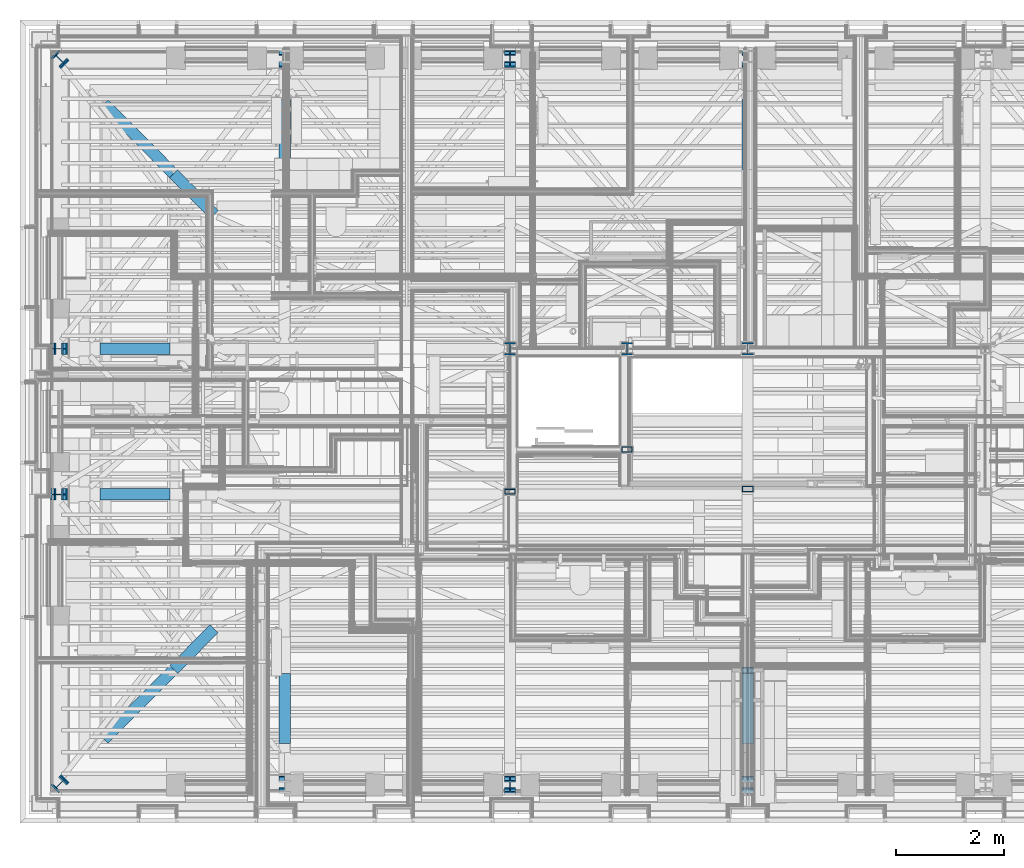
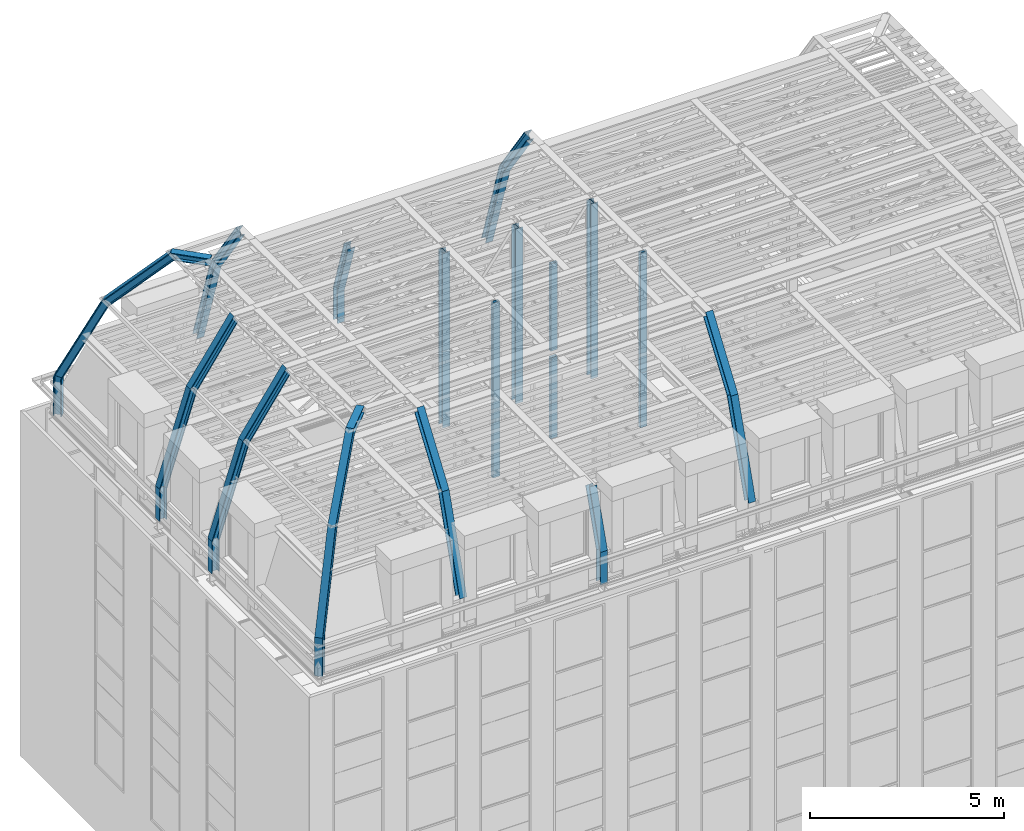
# One storey, part 1 of 183: 33 columns.
"""IFC2X3 building model written with IfcOpenShell, lengths in metres."""

import ifcopenshell
import ifcopenshell.guid

model = None  # the IFC model being written
_history = None  # IfcOwnerHistory: only IFC2X3 demands one
_inside = {}  # id of a spatial element -> (the spatial element, [elements in it])
_under = {}  # id of a project, library or spatial element -> (it, [spatial elements below it])
_declared = {}  # id of a project -> (the project, [libraries it declares])
_typed = {}  # id of a type object -> (the type object, [elements of that type])
_made_of = {}  # id of a material, layer set ... -> (it, [elements and type objects made of it])


def new_model(schema):
    """Start an empty IFC model of exactly this schema.

    Asked for "IFC4X3", IfcOpenShell would pick the latest addendum, in which some entities
    have other attributes; the version numbers below select the first issue.
    IFC2X3 requires an IfcOwnerHistory on every rooted entity: one is made here for all.
    """
    global model, _history
    if schema == "IFC4X3":
        model = ifcopenshell.file(schema_version=(4, 3, 0, 0))
    else:
        model = ifcopenshell.file(schema=schema)
    _inside.clear()
    _under.clear()
    _declared.clear()
    _typed.clear()
    _made_of.clear()
    _history = None
    if model.schema == "IFC2X3":
        org = make("IfcOrganization", Name="unknown")
        user = make(
            "IfcPersonAndOrganization",
            ThePerson=make("IfcPerson", FamilyName="unknown"),
            TheOrganization=org,
        )
        app = make(
            "IfcApplication",
            ApplicationDeveloper=org,
            Version="unknown",
            ApplicationFullName="unknown",
            ApplicationIdentifier="unknown",
        )
        _history = make(
            "IfcOwnerHistory",
            OwningUser=user,
            OwningApplication=app,
            ChangeAction="ADDED",
            CreationDate=0,
        )
    return model


def make(cls, **values):
    """One entity of the class cls with the attributes given. An attribute that is None is left unset."""
    return model.create_entity(
        cls, **{name: value for name, value in values.items() if value is not None}
    )


def entity(cls, *values):
    """Any entity or typed value of the class cls, its attributes in the order of the schema. None: left unset."""
    e = model.create_entity(cls)
    for i, value in enumerate(values):
        if value is not None:
            e[i] = value
    return e


def rooted(cls, **values):
    """An entity with a GlobalId (a new one), such as an element, a storey or a relation."""
    return make(cls, GlobalId=ifcopenshell.guid.new(), OwnerHistory=_history, **values)


def si_unit(unit_type, name, prefix=None):
    """IfcSIUnit, for example si_unit("LENGTHUNIT", "METRE", prefix="MILLI")."""
    return make("IfcSIUnit", UnitType=unit_type, Prefix=prefix, Name=name)


def converted_unit(unit_type, name, factor, base, dimensions=None, offset=None):
    """IfcConversionBasedUnit, such as the inch: factor (a typed value) times the base unit."""
    return make(
        "IfcConversionBasedUnit"
        if offset is None
        else "IfcConversionBasedUnitWithOffset",
        ConversionOffset=offset,
        Dimensions=None
        if dimensions is None
        else entity("IfcDimensionalExponents", *dimensions),
        UnitType=unit_type,
        Name=name,
        ConversionFactor=make(
            "IfcMeasureWithUnit", ValueComponent=factor, UnitComponent=base
        ),
    )


def derived_unit(unit_type, elements):
    """IfcDerivedUnit: a product of units, each with its exponent."""
    return make(
        "IfcDerivedUnit",
        Elements=[
            make("IfcDerivedUnitElement", Unit=unit, Exponent=power)
            for unit, power in elements
        ],
        UnitType=unit_type,
    )


def money_unit(currency):
    """IfcMonetaryUnit."""
    return make("IfcMonetaryUnit", Currency=currency)


def assignment(units):
    """IfcUnitAssignment: the units of a project."""
    return None if units is None else make("IfcUnitAssignment", Units=units)


def point(xyz):
    """IfcCartesianPoint."""
    return None if xyz is None else make("IfcCartesianPoint", Coordinates=xyz)


def direction(xyz):
    """IfcDirection."""
    return None if xyz is None else make("IfcDirection", DirectionRatios=xyz)


def frame(location, z_axis=None, x_axis=None):
    """IfcAxis2Placement3D, a coordinate frame: its origin and axes. An axis left out is left unset."""
    return make(
        "IfcAxis2Placement3D",
        Location=point(location),
        Axis=direction(z_axis),
        RefDirection=direction(x_axis),
    )


def origin_with_axes():
    """The frame at (0, 0, 0) with the z axis (0, 0, 1) and the x axis (1, 0, 0) written out."""
    return frame((0.0, 0.0, 0.0), z_axis=(0.0, 0.0, 1.0), x_axis=(1.0, 0.0, 0.0))


def place(relative_to, where):
    """IfcLocalPlacement: puts the frame where relative to a parent placement (None: the world)."""
    return make(
        "IfcLocalPlacement", PlacementRelTo=relative_to, RelativePlacement=where
    )


def context(
    kind, dimensions, precision=None, world=None, true_north=None, identifier=None
):
    """IfcGeometricRepresentationContext, for example the 3D "Model" context."""
    return make(
        "IfcGeometricRepresentationContext",
        ContextIdentifier=identifier,
        ContextType=kind,
        CoordinateSpaceDimension=dimensions,
        Precision=precision,
        WorldCoordinateSystem=world,
        TrueNorth=true_north,
    )


def subcontext(parent, identifier, kind, view, scale=None):
    """IfcGeometricRepresentationSubContext, for example "Body" below "Model"."""
    return make(
        "IfcGeometricRepresentationSubContext",
        ContextIdentifier=identifier,
        ContextType=kind,
        ParentContext=parent,
        TargetScale=scale,
        TargetView=view,
    )


def project(units=None, contexts=None):
    """IfcProject with its units and contexts."""
    return rooted(
        "IfcProject",
        Name="project",
        RepresentationContexts=contexts,
        UnitsInContext=assignment(units),
    )


def spatial(cls, under=None, at=None, **own):
    """A site, building, storey or space (cls), placed at a placement, below another one or the project."""
    s = rooted(cls, ObjectPlacement=at, **own)
    if under is not None:
        _under.setdefault(under.id(), (under, []))[1].append(s)
    return s


def polyline(points):
    """IfcPolyline through the points."""
    return make("IfcPolyline", Points=[point(p) for p in points])


def outline(outer, holes=None, kind="AREA"):
    """IfcArbitraryClosedProfileDef: a profile drawn as a closed curve; with holes, ...WithVoids."""
    if holes is None:
        return make("IfcArbitraryClosedProfileDef", ProfileType=kind, OuterCurve=outer)
    return make(
        "IfcArbitraryProfileDefWithVoids",
        ProfileType=kind,
        OuterCurve=outer,
        InnerCurves=holes,
    )


def extrude(swept, where, along, depth):
    """IfcExtrudedAreaSolid: the profile swept, set in the frame where, extruded along a direction by depth."""
    return make(
        "IfcExtrudedAreaSolid",
        SweptArea=swept,
        Position=where,
        ExtrudedDirection=direction(along),
        Depth=depth,
    )


def clip(a, b, op="DIFFERENCE"):
    """IfcBooleanClippingResult: the solid a cut by the half space b."""
    return make(
        "IfcBooleanClippingResult", Operator=op, FirstOperand=a, SecondOperand=b
    )


def halfspace(plane, agree):
    """IfcHalfSpaceSolid: all space on one side of the plane z = 0 of the frame plane."""
    return make(
        "IfcHalfSpaceSolid",
        BaseSurface=make("IfcPlane", Position=plane),
        AgreementFlag=agree,
    )


def shape(context_of_items, identifier, shape_type, items):
    """IfcShapeRepresentation: the items that make up one representation, for example the "Body"."""
    return make(
        "IfcShapeRepresentation",
        ContextOfItems=context_of_items,
        RepresentationIdentifier=identifier,
        RepresentationType=shape_type,
        Items=items,
    )


def material(Name=None, Category=None):
    """IfcMaterial."""
    return make("IfcMaterial", Name=Name, Category=Category)


def made_of(thing, what):
    """Note that an element or type object is made of a material, layer set ...; save() writes the relation."""
    if what is not None:
        _made_of.setdefault(what.id(), (what, []))[1].append(thing)
    return thing


def type_object(cls, material=None, **own):
    """A type object (cls), such as IfcWallType, which elements share."""
    return made_of(rooted(cls, **own), material)


def element(
    cls,
    number,
    at=None,
    inside=None,
    cuts=None,
    type_object=None,
    material=None,
    context=None,
    identifier="Body",
    shape_type=None,
    held_by="IfcProductDefinitionShape",
    body=None,
    shapes=None,
    **own,
):
    """One element of the class cls, such as IfcWall. Its Tag is "e" and its number.

    at: its placement. inside: the storey or other place that contains it. cuts: it is an
    opening in that element (IfcRelVoidsElement). A single representation is given by context,
    identifier, shape_type and body (its items); several are given by shapes. held_by: the class
    of the entity that holds the representations. save() writes the other relations.
    """
    e = rooted(cls, Tag="e%d" % number, ObjectPlacement=at, **own)
    if body is not None:
        shapes = [shape(context, identifier, shape_type, body)]
    if shapes is not None:
        e.Representation = make(held_by, Representations=shapes)
    if inside is not None:
        _inside.setdefault(inside.id(), (inside, []))[1].append(e)
    if cuts is not None:
        rooted(
            "IfcRelVoidsElement", RelatingBuildingElement=cuts, RelatedOpeningElement=e
        )
    if type_object is not None:
        _typed.setdefault(type_object.id(), (type_object, []))[1].append(e)
    return made_of(e, material)


def aggregate(whole, parts):
    """IfcRelAggregates: a whole, such as a stair, and the parts it consists of."""
    return rooted("IfcRelAggregates", RelatingObject=whole, RelatedObjects=parts)


def save(model, path):
    """Write the relations noted so far, then the file.

    IfcRelAggregates (storeys below a building ...), IfcRelContainedInSpatialStructure (elements
    in a storey), IfcRelDefinesByType, IfcRelAssociatesMaterial and IfcRelDeclares: one each for
    every whole, place, type object, material and project.
    """
    for whole, parts in _under.values():
        aggregate(whole, parts)
    for where, things in _inside.values():
        rooted(
            "IfcRelContainedInSpatialStructure",
            RelatedElements=things,
            RelatingStructure=where,
        )
    for kind, things in _typed.values():
        rooted("IfcRelDefinesByType", RelatedObjects=things, RelatingType=kind)
    for what, things in _made_of.values():
        rooted("IfcRelAssociatesMaterial", RelatedObjects=things, RelatingMaterial=what)
    for by, libraries in _declared.values():
        rooted("IfcRelDeclares", RelatingContext=by, RelatedDefinitions=libraries)
    model.write(path)


model = new_model("IFC2X3")

# Units and contexts
model_context = context("Model", 3, precision=1e-05, world=origin_with_axes(), true_north=direction((0.0, 1.0)))
body_context = subcontext(model_context, "Body", "Model", "MODEL_VIEW", scale=1.0)
ifc_project = project(units=[si_unit("LENGTHUNIT", "METRE"), si_unit("AREAUNIT", "SQUARE_METRE"), si_unit("VOLUMEUNIT", "CUBIC_METRE"), si_unit("ABSORBEDDOSEUNIT", "GRAY"), si_unit("AMOUNTOFSUBSTANCEUNIT", "MOLE"), si_unit("DOSEEQUIVALENTUNIT", "SIEVERT"), si_unit("ELECTRICCAPACITANCEUNIT", "FARAD"), si_unit("ELECTRICCHARGEUNIT", "COULOMB"), si_unit("ELECTRICCONDUCTANCEUNIT", "SIEMENS"), si_unit("ELECTRICCURRENTUNIT", "AMPERE"), si_unit("ELECTRICRESISTANCEUNIT", "OHM"), si_unit("ELECTRICVOLTAGEUNIT", "VOLT"), si_unit("ENERGYUNIT", "JOULE"), si_unit("FORCEUNIT", "NEWTON"), si_unit("FREQUENCYUNIT", "HERTZ"), si_unit("ILLUMINANCEUNIT", "LUX"), si_unit("INDUCTANCEUNIT", "HENRY"), si_unit("LUMINOUSFLUXUNIT", "LUMEN"), si_unit("LUMINOUSINTENSITYUNIT", "CANDELA"), si_unit("MAGNETICFLUXDENSITYUNIT", "TESLA"), si_unit("MAGNETICFLUXUNIT", "WEBER"), si_unit("MASSUNIT", "GRAM"), converted_unit("PLANEANGLEUNIT", "degree", entity("IfcReal", 0.0174532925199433), si_unit("PLANEANGLEUNIT", "RADIAN"), dimensions=[0, 0, 0, 0, 0, 0, 0]), si_unit("POWERUNIT", "WATT"), si_unit("PRESSUREUNIT", "PASCAL"), si_unit("RADIOACTIVITYUNIT", "BECQUEREL"), si_unit("SOLIDANGLEUNIT", "STERADIAN"), si_unit("THERMODYNAMICTEMPERATUREUNIT", "KELVIN"), si_unit("TIMEUNIT", "SECOND"), derived_unit("ACCELERATIONUNIT", [(si_unit("LENGTHUNIT", "METRE"), 1), (si_unit("TIMEUNIT", "SECOND"), -2)]), derived_unit("ANGULARVELOCITYUNIT", [(converted_unit("PLANEANGLEUNIT", "degree", entity("IfcReal", 0.0174532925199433), si_unit("PLANEANGLEUNIT", "RADIAN"), dimensions=[0, 0, 0, 0, 0, 0, 0]), 1), (si_unit("TIMEUNIT", "SECOND"), -1)]), derived_unit("CURVATUREUNIT", [(converted_unit("PLANEANGLEUNIT", "degree", entity("IfcReal", 0.0174532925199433), si_unit("PLANEANGLEUNIT", "RADIAN"), dimensions=[0, 0, 0, 0, 0, 0, 0]), 1), (si_unit("LENGTHUNIT", "METRE"), -1)]), derived_unit("DYNAMICVISCOSITYUNIT", [(si_unit("PRESSUREUNIT", "PASCAL"), 1), (si_unit("TIMEUNIT", "SECOND"), 1)]), derived_unit("HEATFLUXDENSITYUNIT", [(si_unit("POWERUNIT", "WATT"), 1), (si_unit("LENGTHUNIT", "METRE"), -2)]), derived_unit("HEATINGVALUEUNIT", [(si_unit("ENERGYUNIT", "JOULE"), 1), (si_unit("MASSUNIT", "GRAM"), -1)]), derived_unit("INTEGERCOUNTRATEUNIT", [(si_unit("TIMEUNIT", "SECOND"), -1)]), derived_unit("IONCONCENTRATIONUNIT", [(si_unit("MASSUNIT", "GRAM"), 1), (si_unit("VOLUMEUNIT", "CUBIC_METRE"), -1)]), derived_unit("ISOTHERMALMOISTURECAPACITYUNIT", [(si_unit("VOLUMEUNIT", "CUBIC_METRE"), 1), (si_unit("MASSUNIT", "GRAM"), -1)]), derived_unit("KINEMATICVISCOSITYUNIT", [(si_unit("AREAUNIT", "SQUARE_METRE"), 1), (si_unit("TIMEUNIT", "SECOND"), -1)]), derived_unit("LINEARFORCEUNIT", [(si_unit("FORCEUNIT", "NEWTON"), 1), (si_unit("LENGTHUNIT", "METRE"), -1)]), derived_unit("LINEARMOMENTUNIT", [(si_unit("FORCEUNIT", "NEWTON"), 1), (si_unit("LENGTHUNIT", "METRE"), -1)]), derived_unit("LINEARSTIFFNESSUNIT", [(si_unit("FORCEUNIT", "NEWTON"), 1), (si_unit("LENGTHUNIT", "METRE"), -1)]), derived_unit("LINEARVELOCITYUNIT", [(si_unit("LENGTHUNIT", "METRE"), 1), (si_unit("TIMEUNIT", "SECOND"), -1)]), derived_unit("LUMINOUSINTENSITYDISTRIBUTIONUNIT", [(si_unit("LUMINOUSINTENSITYUNIT", "CANDELA"), 1), (si_unit("LUMINOUSFLUXUNIT", "LUMEN"), -1)]), derived_unit("MASSDENSITYUNIT", [(si_unit("MASSUNIT", "GRAM"), 1), (si_unit("VOLUMEUNIT", "CUBIC_METRE"), -1)]), derived_unit("MASSFLOWRATEUNIT", [(si_unit("MASSUNIT", "GRAM"), 1), (si_unit("TIMEUNIT", "SECOND"), -1)]), derived_unit("MASSPERLENGTHUNIT", [(si_unit("MASSUNIT", "GRAM"), 1), (si_unit("LENGTHUNIT", "METRE"), -1)]), derived_unit("MODULUSOFELASTICITYUNIT", [(si_unit("FORCEUNIT", "NEWTON"), 1), (si_unit("AREAUNIT", "SQUARE_METRE"), -1)]), derived_unit("MODULUSOFLINEARSUBGRADEREACTIONUNIT", [(si_unit("FORCEUNIT", "NEWTON"), 1), (si_unit("LENGTHUNIT", "METRE"), -2)]), derived_unit("MODULUSOFROTATIONALSUBGRADEREACTIONUNIT", [(si_unit("FORCEUNIT", "NEWTON"), 1), (si_unit("LENGTHUNIT", "METRE"), 1)]), derived_unit("MODULUSOFSUBGRADEREACTIONUNIT", [(si_unit("FORCEUNIT", "NEWTON"), 1), (si_unit("VOLUMEUNIT", "CUBIC_METRE"), -1)]), derived_unit("MOISTUREDIFFUSIVITYUNIT", [(si_unit("VOLUMEUNIT", "CUBIC_METRE"), 1), (si_unit("TIMEUNIT", "SECOND"), -1)]), derived_unit("MOLECULARWEIGHTUNIT", [(si_unit("MASSUNIT", "GRAM"), 1), (si_unit("AMOUNTOFSUBSTANCEUNIT", "MOLE"), -1)]), derived_unit("PLANARFORCEUNIT", [(si_unit("FORCEUNIT", "NEWTON"), 1), (si_unit("LENGTHUNIT", "METRE"), -2)]), derived_unit("ROTATIONALFREQUENCYUNIT", [(si_unit("TIMEUNIT", "SECOND"), -1)]), derived_unit("ROTATIONALMASSUNIT", [(si_unit("MASSUNIT", "GRAM"), 1), (si_unit("LENGTHUNIT", "METRE"), 2)]), derived_unit("ROTATIONALSTIFFNESSUNIT", [(si_unit("FORCEUNIT", "NEWTON"), 1), (si_unit("LENGTHUNIT", "METRE"), 1), (converted_unit("PLANEANGLEUNIT", "degree", entity("IfcReal", 0.0174532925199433), si_unit("PLANEANGLEUNIT", "RADIAN"), dimensions=[0, 0, 0, 0, 0, 0, 0]), -1)]), derived_unit("SECTIONAREAINTEGRALUNIT", [(si_unit("LENGTHUNIT", "METRE"), 5)]), derived_unit("SECTIONMODULUSUNIT", [(si_unit("LENGTHUNIT", "METRE"), 3)]), derived_unit("SHEARMODULUSUNIT", [(si_unit("FORCEUNIT", "NEWTON"), 1), (si_unit("AREAUNIT", "SQUARE_METRE"), -1)]), derived_unit("SOUNDPOWERUNIT", [(si_unit("ENERGYUNIT", "JOULE"), 1), (si_unit("TIMEUNIT", "SECOND"), -1)]), derived_unit("SPECIFICHEATCAPACITYUNIT", [(si_unit("FORCEUNIT", "NEWTON"), 1), (si_unit("MASSUNIT", "GRAM"), -1), (si_unit("THERMODYNAMICTEMPERATUREUNIT", "KELVIN"), -1)]), derived_unit("TEMPERATUREGRADIENTUNIT", [(si_unit("THERMODYNAMICTEMPERATUREUNIT", "KELVIN"), 1), (si_unit("LENGTHUNIT", "METRE"), -1)]), derived_unit("THERMALADMITTANCEUNIT", [(si_unit("POWERUNIT", "WATT"), 1), (si_unit("AREAUNIT", "SQUARE_METRE"), -1), (si_unit("THERMODYNAMICTEMPERATUREUNIT", "KELVIN"), -1)]), derived_unit("THERMALCONDUCTANCEUNIT", [(si_unit("POWERUNIT", "WATT"), 1), (si_unit("LENGTHUNIT", "METRE"), -1), (si_unit("THERMODYNAMICTEMPERATUREUNIT", "KELVIN"), -1)]), derived_unit("THERMALEXPANSIONCOEFFICIENTUNIT", [(si_unit("THERMODYNAMICTEMPERATUREUNIT", "KELVIN"), -1)]), derived_unit("THERMALRESISTANCEUNIT", [(si_unit("AREAUNIT", "SQUARE_METRE"), 1), (si_unit("POWERUNIT", "WATT"), -1)]), derived_unit("THERMALTRANSMITTANCEUNIT", [(si_unit("POWERUNIT", "WATT"), 1), (si_unit("AREAUNIT", "SQUARE_METRE"), -1), (si_unit("THERMODYNAMICTEMPERATUREUNIT", "KELVIN"), -1)]), derived_unit("TORQUEUNIT", [(si_unit("FORCEUNIT", "NEWTON"), 1), (si_unit("LENGTHUNIT", "METRE"), 1)]), derived_unit("VAPORPERMEABILITYUNIT", [(si_unit("MASSUNIT", "GRAM"), 1), (si_unit("TIMEUNIT", "SECOND"), -1)]), derived_unit("VOLUMETRICFLOWRATEUNIT", [(si_unit("VOLUMEUNIT", "CUBIC_METRE"), 1), (si_unit("TIMEUNIT", "SECOND"), -1)]), derived_unit("WARPINGCONSTANTUNIT", [(si_unit("LENGTHUNIT", "METRE"), 6)]), derived_unit("WARPINGMOMENTUNIT", [(si_unit("FORCEUNIT", "NEWTON"), 1), (si_unit("LENGTHUNIT", "METRE"), 2)]), money_unit("GBP")], contexts=[model_context])

# Site, building, storey
site_placement = place(None, origin_with_axes())
site = spatial("IfcSite", under=ifc_project, at=site_placement, Name="Site", CompositionType="ELEMENT")
building_placement = place(site_placement, origin_with_axes())
building = spatial("IfcBuilding", under=site, at=building_placement, Name="Building01", CompositionType="ELEMENT")
storey_placement = place(building_placement, frame((0.0, 0.0, 5.15), z_axis=(0.0, 0.0, 1.0), x_axis=(1.0, 0.0, 0.0)))
storey = spatial("IfcBuildingStorey", under=building, at=storey_placement, Name="1F", CompositionType="ELEMENT", Elevation=5.15)

# Columns
ifc_material = material(Name="A_BSUK_Columns_Steel")
column_type = type_object("IfcColumnType", Name="A-Columns-Steel", PredefinedType="COLUMN")
for number, where, z_axis, x_axis, name in (
    (1, (8.98485, 8.6857, 9.73), (0.0, 0.0, 1.0), (1.0, 0.0, 0.0), "UC203f"),
    (2, (11.15485, 8.6857, 9.73), (0.0, 0.0, 1.0), (1.0, 0.0, 0.0), "UC203f"),
    (3, (13.39485, 8.6857, 9.73), (0.0, 0.0, 1.0), (1.0, 0.0, 0.0), "UC203f"),
):
    element("IfcColumn", number, at=place(storey_placement, frame(where, z_axis=z_axis, x_axis=x_axis)), inside=storey, type_object=column_type, material=ifc_material, Name=name, ObjectType="A-Columns-Steel", context=body_context, shape_type="SweptSolid", body=[
        extrude(outline(polyline([(0.2103, 0.0), (0.2103, 0.0237), (0.1124, 0.0237), (0.1124, 0.2049), (0.2103, 0.2049), (0.2103, 0.2286), (0.0, 0.2286), (0.0, 0.2049), (0.0979, 0.2049), (0.0979, 0.0237), (0.0, 0.0237), (0.0, 0.0), (0.2103, 0.0)])), origin_with_axes(), (0.0, 0.0, 1.0), 5.497),
    ])
column_1_placement = place(storey_placement, frame((9.09, 6.15, 9.73), z_axis=(0.0, 0.0, 1.0), x_axis=(-1.0, 0.0, 0.0)))
element("IfcColumn", 4, at=column_1_placement, inside=storey, type_object=column_type, material=ifc_material, Name="RHS200h", ObjectType="A-Columns-Steel", context=body_context, shape_type="SweptSolid", body=[
    extrude(outline(polyline([(-0.1, 0.05), (0.1, 0.05), (0.1, -0.05), (-0.1, -0.05), (-0.1, 0.05)]), holes=[polyline([(-0.09, 0.04), (-0.09, -0.04), (0.09, -0.04), (0.09, 0.04), (-0.09, 0.04)])]), origin_with_axes(), (0.0, 0.0, 1.0), 5.497),
])
column_2_placement = place(storey_placement, frame((11.26, 6.93, 9.73), z_axis=(0.0, 0.0, 1.0), x_axis=(-1.0, 0.0, 0.0)))
element("IfcColumn", 5, at=column_2_placement, inside=storey, type_object=column_type, material=ifc_material, Name="RHS200h", ObjectType="A-Columns-Steel", context=body_context, shape_type="SweptSolid", body=[
    extrude(outline(polyline([(-0.1, 0.05), (0.1, 0.05), (0.1, -0.05), (-0.1, -0.05), (-0.1, 0.05)]), holes=[polyline([(-0.09, 0.04), (-0.09, -0.04), (0.09, -0.04), (0.09, 0.04), (-0.09, 0.04)])]), origin_with_axes(), (0.0, 0.0, 1.0), 2.547),
])
column_3_placement = place(storey_placement, frame((11.26, 6.93, 12.48), z_axis=(0.0, 0.0, 1.0), x_axis=(-1.0, 0.0, 0.0)))
element("IfcColumn", 6, at=column_3_placement, inside=storey, type_object=column_type, material=ifc_material, Name="RHS200h", ObjectType="A-Columns-Steel", context=body_context, shape_type="SweptSolid", body=[
    extrude(outline(polyline([(-0.1, 0.05), (0.1, 0.05), (0.1, -0.05), (-0.1, -0.05), (-0.1, 0.05)]), holes=[polyline([(-0.09, 0.04), (-0.09, -0.04), (0.09, -0.04), (0.09, 0.04), (-0.09, 0.04)])]), origin_with_axes(), (0.0, 0.0, 1.0), 2.747),
])
column_4_placement = place(storey_placement, frame((13.5, 6.2, 9.73), z_axis=(0.0, 0.0, 1.0), x_axis=(-1.0, 0.0, 0.0)))
element("IfcColumn", 7, at=column_4_placement, inside=storey, type_object=column_type, material=ifc_material, Name="RHS200h", ObjectType="A-Columns-Steel", context=body_context, shape_type="SweptSolid", body=[
    extrude(outline(polyline([(-0.1, 0.05), (0.1, 0.05), (0.1, -0.05), (-0.1, -0.05), (-0.1, 0.05)]), holes=[polyline([(-0.09, 0.04), (-0.09, -0.04), (0.09, -0.04), (0.09, 0.04), (-0.09, 0.04)])]), origin_with_axes(), (0.0, 0.0, 1.0), 5.497),
])
column_5_placement = place(storey_placement, frame((13.60515, 0.778712, 10.678289), z_axis=(0.0, 0.30901699, 0.95105652), x_axis=(-1.0, 0.0, 0.0)))
element("IfcColumn", 8, at=column_5_placement, inside=storey, type_object=column_type, material=ifc_material, Name="UC203f", ObjectType="A-Columns-Steel", context=body_context, shape_type="Clipping", body=[
    clip(clip(extrude(outline(polyline([(0.2103, 0.0), (0.2103, 0.0237), (0.1124, 0.0237), (0.1124, 0.2049), (0.2103, 0.2049), (0.2103, 0.2286), (0.0, 0.2286), (0.0, 0.2049), (0.0979, 0.2049), (0.0979, 0.0237), (0.0, 0.0237), (0.0, 0.0), (0.2103, 0.0)])), origin_with_axes(), (0.0, 0.0, 1.0), 2.964323), halfspace(frame((0.0, 0.005594, 0.035321), z_axis=(0.0, 0.15643447, 0.98768834), x_axis=(1.0, 0.0, 0.0)), True)), halfspace(frame((0.0, -0.428348, 2.866142), z_axis=(0.0, 0.14780941, -0.98901586), x_axis=(-1.0, 0.0, 0.0)), True)),
])
column_6_placement = place(storey_placement, frame((8.98485, 0.5613, 9.73), z_axis=(0.0, 0.0, 1.0), x_axis=(1.0, 0.0, 0.0)))
element("IfcColumn", 9, at=column_6_placement, inside=storey, type_object=column_type, material=ifc_material, Name="UC203f", ObjectType="A-Columns-Steel", context=body_context, shape_type="Clipping", body=[
    clip(extrude(outline(polyline([(0.2103, 0.0), (0.2103, 0.0237), (0.1124, 0.0237), (0.1124, 0.2049), (0.2103, 0.2049), (0.2103, 0.2286), (0.0, 0.2286), (0.0, 0.2049), (0.0979, 0.2049), (0.0979, 0.0237), (0.0, 0.0237), (0.0, 0.0), (0.2103, 0.0)])), origin_with_axes(), (0.0, 0.0, 1.0), 1.018931), halfspace(frame((0.0, 0.157433, 0.993996), z_axis=(0.0, -0.15643447, -0.98768834), x_axis=(-1.0, 0.0, 0.0)), True)),
])
column_7_placement = place(storey_placement, frame((9.19515, 0.778712, 10.678289), z_axis=(0.0, 0.30901699, 0.95105652), x_axis=(-1.0, 0.0, 0.0)))
element("IfcColumn", 10, at=column_7_placement, inside=storey, type_object=column_type, material=ifc_material, Name="UC203f", ObjectType="A-Columns-Steel", context=body_context, shape_type="Clipping", body=[
    clip(clip(extrude(outline(polyline([(0.2103, 0.0), (0.2103, 0.0237), (0.1124, 0.0237), (0.1124, 0.2049), (0.2103, 0.2049), (0.2103, 0.2286), (0.0, 0.2286), (0.0, 0.2049), (0.0979, 0.2049), (0.0979, 0.0237), (0.0, 0.0237), (0.0, 0.0), (0.2103, 0.0)])), origin_with_axes(), (0.0, 0.0, 1.0), 1.806986), halfspace(frame((0.0, 0.005594, 0.035321), z_axis=(0.0, 0.15643447, 0.98768834), x_axis=(1.0, 0.0, 0.0)), True)), halfspace(frame((0.0, -0.428348, 2.866142), z_axis=(0.0, 0.14780941, -0.98901586), x_axis=(-1.0, 0.0, 0.0)), True)),
])
column_8_placement = place(storey_placement, frame((5.01515, 0.778712, 10.678289), z_axis=(0.0, 0.30901699, 0.95105652), x_axis=(-1.0, 0.0, 0.0)))
element("IfcColumn", 11, at=column_8_placement, inside=storey, type_object=column_type, material=ifc_material, Name="UC203f", ObjectType="A-Columns-Steel", context=body_context, shape_type="Clipping", body=[
    clip(clip(extrude(outline(polyline([(0.2103, 0.0), (0.2103, 0.0237), (0.1124, 0.0237), (0.1124, 0.2049), (0.2103, 0.2049), (0.2103, 0.2286), (0.0, 0.2286), (0.0, 0.2049), (0.0979, 0.2049), (0.0979, 0.0237), (0.0, 0.0237), (0.0, 0.0), (0.2103, 0.0)])), origin_with_axes(), (0.0, 0.0, 1.0), 2.964323), halfspace(frame((0.0, 0.005594, 0.035321), z_axis=(0.0, 0.15643447, 0.98768834), x_axis=(1.0, 0.0, 0.0)), True)), halfspace(frame((0.0, -0.428348, 2.866142), z_axis=(0.0, 0.14780941, -0.98901586), x_axis=(-1.0, 0.0, 0.0)), True)),
])
column_9_placement = place(storey_placement, frame((2.968871, 8.90515, 15.29248), z_axis=(-0.57357644, 0.0, -0.81915204), x_axis=(-0.81915204, 0.0, 0.57357644)))
element("IfcColumn", 12, at=column_9_placement, inside=storey, type_object=column_type, material=ifc_material, Name="UC203f", ObjectType="A-Columns-Steel", context=body_context, shape_type="Clipping", body=[
    clip(clip(extrude(outline(polyline([(0.0237, 0.0), (0.0237, -0.0979), (0.2049, -0.0979), (0.2049, 0.0), (0.2286, 0.0), (0.2286, -0.2103), (0.2049, -0.2103), (0.2049, -0.1124), (0.0237, -0.1124), (0.0237, -0.2103), (0.0, -0.2103), (0.0, 0.0), (0.0237, 0.0)])), origin_with_axes(), (0.0, 0.0, 1.0), 2.265062), halfspace(frame((0.04874, 0.0, 0.093629), z_axis=(0.46174861, 0.0, 0.88701083), x_axis=(0.88701083, 0.0, -0.46174861)), True)), halfspace(frame((-0.326126, 0.0, 2.182158), z_axis=(0.14780941, 0.0, -0.98901586), x_axis=(-0.98901586, 0.0, -0.14780941)), True)),
])
column_10_placement = place(storey_placement, frame((1.699838, 8.90515, 13.497528), z_axis=(-0.30901699, 0.0, -0.95105652), x_axis=(-0.95105652, 0.0, 0.30901699)))
element("IfcColumn", 13, at=column_10_placement, inside=storey, type_object=column_type, material=ifc_material, Name="UC203f", ObjectType="A-Columns-Steel", context=body_context, shape_type="Clipping", body=[
    clip(clip(extrude(outline(polyline([(0.0237, 0.0), (0.0237, -0.0979), (0.2049, -0.0979), (0.2049, 0.0), (0.2286, 0.0), (0.2286, -0.2103), (0.2049, -0.2103), (0.2049, -0.1124), (0.0237, -0.1124), (0.0237, -0.2103), (0.0, -0.2103), (0.0, 0.0), (0.0237, 0.0)])), origin_with_axes(), (0.0, 0.0, 1.0), 2.964323), halfspace(frame((-0.452419, 0.0, 2.85646), z_axis=(0.15643447, 0.0, -0.98768834), x_axis=(-0.98768834, 0.0, -0.15643447)), True)), halfspace(frame((0.004994, 0.0, 0.033418), z_axis=(0.14780941, 0.0, 0.98901586), x_axis=(0.98901586, 0.0, -0.14780941)), True)),
])
for number, where, z_axis, x_axis, name in (
    (14, (0.5664, 8.69485, 10.748931), (0.0, 0.0, -1.0), (1.0, 0.0, 0.0), "UC203f"),
    (15, (0.5664, 5.99485, 10.748931), (0.0, 0.0, -1.0), (1.0, 0.0, 0.0), "UC203f"),
):
    element("IfcColumn", number, at=place(storey_placement, frame(where, z_axis=z_axis, x_axis=x_axis)), inside=storey, type_object=column_type, material=ifc_material, Name=name, ObjectType="A-Columns-Steel", context=body_context, shape_type="Clipping", body=[
        clip(extrude(outline(polyline([(0.0237, 0.0), (0.0237, -0.0979), (0.2049, -0.0979), (0.2049, 0.0), (0.2286, 0.0), (0.2286, -0.2103), (0.2049, -0.2103), (0.2049, -0.1124), (0.0237, -0.1124), (0.0237, -0.2103), (0.0, -0.2103), (0.0, 0.0), (0.0237, 0.0)])), origin_with_axes(), (0.0, 0.0, 1.0), 1.018931), halfspace(frame((0.0, 0.0, 0.0), z_axis=(-0.15643447, 0.0, 0.98768834), x_axis=(0.98768834, 0.0, 0.15643447)), True)),
    ])
column_11_placement = place(storey_placement, frame((1.699838, 6.20515, 13.497528), z_axis=(-0.30901699, 0.0, -0.95105652), x_axis=(-0.95105652, 0.0, 0.30901699)))
element("IfcColumn", 16, at=column_11_placement, inside=storey, type_object=column_type, material=ifc_material, Name="UC203f", ObjectType="A-Columns-Steel", context=body_context, shape_type="Clipping", body=[
    clip(clip(extrude(outline(polyline([(0.0237, 0.0), (0.0237, -0.0979), (0.2049, -0.0979), (0.2049, 0.0), (0.2286, 0.0), (0.2286, -0.2103), (0.2049, -0.2103), (0.2049, -0.1124), (0.0237, -0.1124), (0.0237, -0.2103), (0.0, -0.2103), (0.0, 0.0), (0.0237, 0.0)])), origin_with_axes(), (0.0, 0.0, 1.0), 2.964323), halfspace(frame((-0.452419, 0.0, 2.85646), z_axis=(0.15643447, 0.0, -0.98768834), x_axis=(-0.98768834, 0.0, -0.15643447)), True)), halfspace(frame((0.004994, 0.0, 0.033418), z_axis=(0.14780941, 0.0, 0.98901586), x_axis=(0.98901586, 0.0, -0.14780941)), True)),
])
column_12_placement = place(storey_placement, frame((2.968871, 6.20515, 15.29248), z_axis=(-0.57357644, 0.0, -0.81915204), x_axis=(-0.81915204, 0.0, 0.57357644)))
element("IfcColumn", 17, at=column_12_placement, inside=storey, type_object=column_type, material=ifc_material, Name="UC203f", ObjectType="A-Columns-Steel", context=body_context, shape_type="Clipping", body=[
    clip(clip(extrude(outline(polyline([(0.0237, 0.0), (0.0237, -0.0979), (0.2049, -0.0979), (0.2049, 0.0), (0.2286, 0.0), (0.2286, -0.2103), (0.2049, -0.2103), (0.2049, -0.1124), (0.0237, -0.1124), (0.0237, -0.2103), (0.0, -0.2103), (0.0, 0.0), (0.0237, 0.0)])), origin_with_axes(), (0.0, 0.0, 1.0), 2.265062), halfspace(frame((0.04874, 0.0, 0.093629), z_axis=(0.46174861, 0.0, 0.88701083), x_axis=(0.88701083, 0.0, -0.46174861)), True)), halfspace(frame((-0.326126, 0.0, 2.182158), z_axis=(0.14780941, 0.0, -0.98901586), x_axis=(-0.98901586, 0.0, -0.14780941)), True)),
])
column_13_placement = place(storey_placement, frame((2.891269, 3.042074, 15.262728), z_axis=(-0.49626941, -0.49894945, -0.71046894), x_axis=(-0.50102273, -0.50372844, 0.70372855)))
element("IfcColumn", 18, at=column_13_placement, inside=storey, type_object=column_type, material=ifc_material, Name="UC203f", ObjectType="A-Columns-Steel", context=body_context, shape_type="Clipping", body=[
    clip(clip(extrude(outline(polyline([(0.0237, 0.0), (0.0237, -0.0979), (0.2049, -0.0979), (0.2049, 0.0), (0.2286, 0.0), (0.2286, -0.2103), (0.2049, -0.2103), (0.2049, -0.1124), (0.0237, -0.1124), (0.0237, -0.2103), (0.0, -0.2103), (0.0, 0.0), (0.0237, 0.0)])), origin_with_axes(), (0.0, 0.0, 1.0), 2.597378), halfspace(frame((-0.404911, 0.0, 2.494547), z_axis=(0.16022129, 0.0, -0.98708112), x_axis=(-0.98708112, 0.0, -0.16022129)), True)), halfspace(frame((0.033864, 0.0, 0.081207), z_axis=(0.38488404, 0.0, 0.92296494), x_axis=(0.92296494, 0.0, -0.38488404)), True)),
])
column_14_placement = place(storey_placement, frame((1.632274, 1.776279, 13.477003), z_axis=(-0.31231518, -0.3140018, -0.89658357), x_axis=(-0.63227078, -0.63568527, 0.44287459)))
element("IfcColumn", 19, at=column_14_placement, inside=storey, type_object=column_type, material=ifc_material, Name="UC203f", ObjectType="A-Columns-Steel", context=body_context, shape_type="Clipping", body=[
    clip(clip(clip(extrude(outline(polyline([(0.0237, 0.0), (0.0237, -0.0979), (0.2049, -0.0979), (0.2049, 0.0), (0.2286, 0.0), (0.2286, -0.2103), (0.2049, -0.2103), (0.2049, -0.1124), (0.0237, -0.1124), (0.0237, -0.2103), (0.0, -0.2103), (0.0, 0.0), (0.0237, 0.0)])), origin_with_axes(), (0.0, 0.0, 1.0), 2.936133), halfspace(frame((-0.638349, 0.0, 2.73369), z_axis=(0.2273944, 0.0, -0.97380274), x_axis=(-0.97380274, 0.0, -0.2273944)), True)), halfspace(frame((-0.638349, 0.0, 2.73369), z_axis=(0.2273944, 0.0, -0.97380274), x_axis=(-0.97380274, 0.0, -0.2273944)), True)), halfspace(frame((-0.638349, 0.0, 2.73369), z_axis=(0.2273944, 0.0, -0.97380274), x_axis=(-0.97380274, 0.0, -0.2273944)), True)),
])
column_15_placement = place(storey_placement, frame((0.719842, 0.560707, 10.945755), z_axis=(0.0, 0.0, -1.0), x_axis=(0.70520005, 0.70900839, 0.0)))
element("IfcColumn", 20, at=column_15_placement, inside=storey, type_object=column_type, material=ifc_material, Name="UC203f", ObjectType="A-Columns-Steel", context=body_context, shape_type="Clipping", body=[
    clip(extrude(outline(polyline([(0.0237, 0.0), (0.0237, -0.0979), (0.2049, -0.0979), (0.2049, 0.0), (0.2286, 0.0), (0.2286, -0.2103), (0.2049, -0.2103), (0.2049, -0.1124), (0.0237, -0.1124), (0.0237, -0.2103), (0.0, -0.2103), (0.0, 0.0), (0.0237, 0.0)])), origin_with_axes(), (0.0, 0.0, 1.0), 1.215755), halfspace(frame((0.0, 0.0, 0.0), z_axis=(-0.2273944, 0.0, 0.97380274), x_axis=(0.97380274, 0.0, 0.2273944)), True)),
])
column_16_placement = place(storey_placement, frame((3.675616, 3.532443, 15.4236), z_axis=(-0.70520005, -0.70900839, 0.0), x_axis=(-0.70900839, 0.70520005, 0.0)))
element("IfcColumn", 21, at=column_16_placement, inside=storey, type_object=column_type, material=ifc_material, Name="UC203f", ObjectType="A-Columns-Steel", context=body_context, shape_type="Clipping", body=[
    clip(extrude(outline(polyline([(0.2103, 0.0), (0.2103, 0.0237), (0.1124, 0.0237), (0.1124, 0.2049), (0.2103, 0.2049), (0.2103, 0.2286), (0.0, 0.2286), (0.0, 0.2049), (0.0979, 0.2049), (0.0979, 0.0237), (0.0, 0.0237), (0.0, 0.0), (0.2103, 0.0)])), origin_with_axes(), (0.0, 0.0, 1.0), 1.06321), halfspace(frame((0.0, 0.377689, 0.90571), z_axis=(0.0, -0.38488404, -0.92296494), x_axis=(-1.0, 0.0, 0.0)), True)),
])
column_17_placement = place(storey_placement, frame((13.60515, 1.664642, 13.437133), z_axis=(0.0, 0.57351196, 0.81919719), x_axis=(-1.0, 0.0, 0.0)))
element("IfcColumn", 22, at=column_17_placement, inside=storey, type_object=column_type, material=ifc_material, Name="UC203f", ObjectType="A-Columns-Steel", context=body_context, shape_type="Clipping", body=[
    clip(clip(extrude(outline(polyline([(0.2103, 0.0), (0.2103, 0.0237), (0.1124, 0.0237), (0.1124, 0.2049), (0.2103, 0.2049), (0.2103, 0.2286), (0.0, 0.2286), (0.0, 0.2049), (0.0979, 0.2049), (0.0979, 0.0237), (0.0, 0.0237), (0.0, 0.0), (0.2103, 0.0)])), origin_with_axes(), (0.0, 0.0, 1.0), 2.264855), halfspace(frame((0.0, -0.878934, 1.688254), z_axis=(0.0, 0.46178352, -0.88699266), x_axis=(-1.0, 0.0, 0.0)), True)), halfspace(frame((0.0, 0.005868, 0.036153), z_axis=(0.0, 0.16022129, 0.98708112), x_axis=(1.0, 0.0, 0.0)), True)),
])
column_18_placement = place(storey_placement, frame((5.01515, 1.664642, 13.437133), z_axis=(0.0, 0.57351196, 0.81919719), x_axis=(-1.0, 0.0, 0.0)))
element("IfcColumn", 23, at=column_18_placement, inside=storey, type_object=column_type, material=ifc_material, Name="UC203f", ObjectType="A-Columns-Steel", context=body_context, shape_type="Clipping", body=[
    clip(clip(clip(extrude(outline(polyline([(0.2103, 0.0), (0.2103, 0.0237), (0.1124, 0.0237), (0.1124, 0.2049), (0.2103, 0.2049), (0.2103, 0.2286), (0.0, 0.2286), (0.0, 0.2049), (0.0979, 0.2049), (0.0979, 0.0237), (0.0, 0.0237), (0.0, 0.0), (0.2103, 0.0)])), origin_with_axes(), (0.0, 0.0, 1.0), 2.264855), halfspace(frame((0.0, -0.878934, 1.688254), z_axis=(0.0, 0.46178352, -0.88699266), x_axis=(-1.0, 0.0, 0.0)), True)), halfspace(frame((0.0, -0.878934, 1.688254), z_axis=(0.0, 0.46178352, -0.88699266), x_axis=(-1.0, 0.0, 0.0)), True)), halfspace(frame((0.0, 0.005868, 0.036153), z_axis=(0.0, 0.16022129, 0.98708112), x_axis=(1.0, 0.0, 0.0)), True)),
])
column_19_placement = place(storey_placement, frame((5.01515, 13.205262, 13.497528), z_axis=(0.0, 0.30901699, -0.95105652), x_axis=(0.0, 0.95105652, 0.30901699)))
element("IfcColumn", 24, at=column_19_placement, inside=storey, type_object=column_type, material=ifc_material, Name="A2", ObjectType="A-Columns-Steel", context=body_context, shape_type="Clipping", body=[
    clip(clip(extrude(outline(polyline([(0.0237, 0.0), (0.0237, -0.0979), (0.2049, -0.0979), (0.2049, 0.0), (0.2286, 0.0), (0.2286, -0.2103), (0.2049, -0.2103), (0.2049, -0.1124), (0.0237, -0.1124), (0.0237, -0.2103), (0.0, -0.2103), (0.0, 0.0), (0.0237, 0.0)])), origin_with_axes(), (0.0, 0.0, 1.0), 2.964323), halfspace(frame((-0.452419, 0.0, 2.85646), z_axis=(0.15643447, 0.0, -0.98768834), x_axis=(-0.98768834, 0.0, -0.15643447)), True)), halfspace(frame((0.004994, 0.0, 0.033418), z_axis=(0.14780941, 0.0, 0.98901586), x_axis=(0.98901586, 0.0, -0.14780941)), True)),
])
column_20_placement = place(storey_placement, frame((9.19515, 13.563034, 12.39642), z_axis=(0.0, 0.30901699, -0.95105652), x_axis=(0.0, 0.95105652, 0.30901699)))
element("IfcColumn", 25, at=column_20_placement, inside=storey, type_object=column_type, material=ifc_material, Name="A2", ObjectType="A-Columns-Steel", context=body_context, shape_type="Clipping", body=[
    clip(clip(extrude(outline(polyline([(0.0237, 0.0), (0.0237, -0.0979), (0.2049, -0.0979), (0.2049, 0.0), (0.2286, 0.0), (0.2286, -0.2103), (0.2049, -0.2103), (0.2049, -0.1124), (0.0237, -0.1124), (0.0237, -0.2103), (0.0, -0.2103), (0.0, 0.0), (0.0237, 0.0)])), origin_with_axes(), (0.0, 0.0, 1.0), 1.80655), halfspace(frame((-0.273533, 0.0, 1.72702), z_axis=(0.15643447, 0.0, -0.98768834), x_axis=(-0.98768834, 0.0, -0.15643447)), True)), halfspace(frame((-0.164256, 0.0, -1.099061), z_axis=(0.14780941, 0.0, 0.98901586), x_axis=(0.98901586, 0.0, -0.14780941)), True)),
])
column_21_placement = place(storey_placement, frame((8.98485, 14.3387, 10.748931), z_axis=(0.0, 0.0, -1.0), x_axis=(0.0, -1.0, 0.0)))
element("IfcColumn", 26, at=column_21_placement, inside=storey, type_object=column_type, material=ifc_material, Name="A2", ObjectType="A-Columns-Steel", context=body_context, shape_type="Clipping", body=[
    clip(extrude(outline(polyline([(0.0237, 0.0), (0.0237, -0.0979), (0.2049, -0.0979), (0.2049, 0.0), (0.2286, 0.0), (0.2286, -0.2103), (0.2049, -0.2103), (0.2049, -0.1124), (0.0237, -0.1124), (0.0237, -0.2103), (0.0, -0.2103), (0.0, 0.0), (0.0237, 0.0)])), origin_with_axes(), (0.0, 0.0, 1.0), 1.018931), halfspace(frame((0.0, 0.0, 0.0), z_axis=(-0.15643447, 0.0, 0.98768834), x_axis=(0.98768834, 0.0, 0.15643447)), True)),
])
column_22_placement = place(storey_placement, frame((13.60515, 13.205262, 13.497528), z_axis=(0.0, 0.30901699, -0.95105652), x_axis=(0.0, 0.95105652, 0.30901699)))
element("IfcColumn", 27, at=column_22_placement, inside=storey, type_object=column_type, material=ifc_material, Name="A2", ObjectType="A-Columns-Steel", context=body_context, shape_type="Clipping", body=[
    clip(clip(extrude(outline(polyline([(0.0237, 0.0), (0.0237, -0.0979), (0.2049, -0.0979), (0.2049, 0.0), (0.2286, 0.0), (0.2286, -0.2103), (0.2049, -0.2103), (0.2049, -0.1124), (0.0237, -0.1124), (0.0237, -0.2103), (0.0, -0.2103), (0.0, 0.0), (0.0237, 0.0)])), origin_with_axes(), (0.0, 0.0, 1.0), 2.964323), halfspace(frame((-0.452419, 0.0, 2.85646), z_axis=(0.15643447, 0.0, -0.98768834), x_axis=(-0.98768834, 0.0, -0.15643447)), True)), halfspace(frame((0.004994, 0.0, 0.033418), z_axis=(0.14780941, 0.0, 0.98901586), x_axis=(0.98901586, 0.0, -0.14780941)), True)),
])
column_23_placement = place(storey_placement, frame((0.719842, 14.339293, 9.73), z_axis=(0.0, 0.0, 1.0), x_axis=(-0.70900839, -0.70520005, 0.0)))
element("IfcColumn", 28, at=column_23_placement, inside=storey, type_object=column_type, material=ifc_material, Name="A2", ObjectType="A-Columns-Steel", context=body_context, shape_type="Clipping", body=[
    clip(extrude(outline(polyline([(0.2103, 0.0), (0.2103, 0.0237), (0.1124, 0.0237), (0.1124, 0.2049), (0.2103, 0.2049), (0.2103, 0.2286), (0.0, 0.2286), (0.0, 0.2049), (0.0979, 0.2049), (0.0979, 0.0237), (0.0, 0.0237), (0.0, 0.0), (0.2103, 0.0)])), origin_with_axes(), (0.0, 0.0, 1.0), 1.215755), halfspace(frame((0.0, 0.269213, 1.15289), z_axis=(0.0, -0.2273944, -0.97380274), x_axis=(-1.0, 0.0, 0.0)), True)),
])
column_24_placement = place(storey_placement, frame((0.715275, 14.045672, 10.844514), z_axis=(0.31231518, -0.3140018, 0.89658357), x_axis=(0.70900839, 0.70520005, 0.0)))
element("IfcColumn", 29, at=column_24_placement, inside=storey, type_object=column_type, material=ifc_material, Name="A2", ObjectType="A-Columns-Steel", context=body_context, shape_type="Clipping", body=[
    clip(clip(clip(extrude(outline(polyline([(0.2103, 0.0), (0.2103, 0.0237), (0.1124, 0.0237), (0.1124, 0.2049), (0.2103, 0.2049), (0.2103, 0.2286), (0.0, 0.2286), (0.0, 0.2049), (0.0979, 0.2049), (0.0979, 0.0237), (0.0, 0.0237), (0.0, 0.0), (0.2103, 0.0)])), origin_with_axes(), (0.0, 0.0, 1.0), 2.936133), halfspace(frame((0.0, 0.01182, 0.050621), z_axis=(0.0, 0.2273944, 0.97380274), x_axis=(1.0, 0.0, 0.0)), True)), halfspace(frame((0.0, -0.458485, 2.824607), z_axis=(0.0, 0.16022129, -0.98708112), x_axis=(-1.0, 0.0, 0.0)), True)), halfspace(frame((0.0, 0.01182, 0.050621), z_axis=(0.0, 0.2273944, 0.97380274), x_axis=(1.0, 0.0, 0.0)), True)),
])
column_25_placement = place(storey_placement, frame((1.60227, 13.153886, 13.417371), z_axis=(0.49626941, -0.49894945, 0.71046894), x_axis=(0.70900839, 0.70520005, 0.0)))
element("IfcColumn", 30, at=column_25_placement, inside=storey, type_object=column_type, material=ifc_material, Name="A2", ObjectType="A-Columns-Steel", context=body_context, shape_type="Clipping", body=[
    clip(clip(extrude(outline(polyline([(0.2103, 0.0), (0.2103, 0.0237), (0.1124, 0.0237), (0.1124, 0.2049), (0.2103, 0.2049), (0.2103, 0.2286), (0.0, 0.2286), (0.0, 0.2049), (0.0979, 0.2049), (0.0979, 0.0237), (0.0, 0.0237), (0.0, 0.0), (0.2103, 0.0)])), origin_with_axes(), (0.0, 0.0, 1.0), 2.597378), halfspace(frame((0.0, 0.005868, 0.036153), z_axis=(0.0, 0.16022129, 0.98708112), x_axis=(1.0, 0.0, 0.0)), True)), halfspace(frame((0.0, 0.005868, 0.036153), z_axis=(0.0, 0.16022129, 0.98708112), x_axis=(1.0, 0.0, 0.0)), True)),
])
column_26_placement = place(storey_placement, frame((2.92584, 12.121382, 15.4236), z_axis=(0.70520005, -0.70900839, 0.0), x_axis=(-0.70900839, -0.70520005, 0.0)))
element("IfcColumn", 31, at=column_26_placement, inside=storey, type_object=column_type, material=ifc_material, Name="A2", ObjectType="A-Columns-Steel", context=body_context, shape_type="Clipping", body=[
    clip(extrude(outline(polyline([(0.2103, 0.0), (0.2103, 0.0237), (0.1124, 0.0237), (0.1124, 0.2049), (0.2103, 0.2049), (0.2103, 0.2286), (0.0, 0.2286), (0.0, 0.2049), (0.0979, 0.2049), (0.0979, 0.0237), (0.0, 0.0237), (0.0, 0.0), (0.2103, 0.0)])), origin_with_axes(), (0.0, 0.0, 1.0), 1.063331), halfspace(frame((0.0, 0.0, 0.0), z_axis=(0.0, -0.38488404, 0.92296494), x_axis=(1.0, 0.0, 0.0)), True)),
])
for number, where, z_axis, x_axis, name in (
    (32, (13.60515, 9.642389, 18.569284), (0.0, 0.57351196, -0.81919718), (0.0, 0.81919719, 0.57351196), "A2"),
    (33, (5.01515, 9.642389, 18.569284), (0.0, 0.57351196, -0.81919718), (0.0, 0.81919719, 0.57351196), "A2"),
):
    element("IfcColumn", number, at=place(storey_placement, frame(where, z_axis=z_axis, x_axis=x_axis)), inside=storey, type_object=column_type, material=ifc_material, Name=name, ObjectType="A-Columns-Steel", context=body_context, shape_type="Clipping", body=[
        clip(clip(extrude(outline(polyline([(0.0237, 0.0), (0.0237, -0.0979), (0.2049, -0.0979), (0.2049, 0.0), (0.2286, 0.0), (0.2286, -0.2103), (0.2049, -0.2103), (0.2049, -0.1124), (0.0237, -0.1124), (0.0237, -0.2103), (0.0, -0.2103), (0.0, 0.0), (0.0237, 0.0)])), origin_with_axes(), (0.0, 0.0, 1.0), 6.264855), halfspace(frame((1.687142, 0.0, 3.240658), z_axis=(0.46178352, 0.0, 0.88699266), x_axis=(0.88699266, 0.0, -0.46178352)), True)), halfspace(frame((-0.984927, 0.0, 6.067877), z_axis=(0.16022129, 0.0, -0.98708112), x_axis=(-0.98708112, 0.0, -0.16022129)), True)),
    ])

save(model, "model.ifc")
